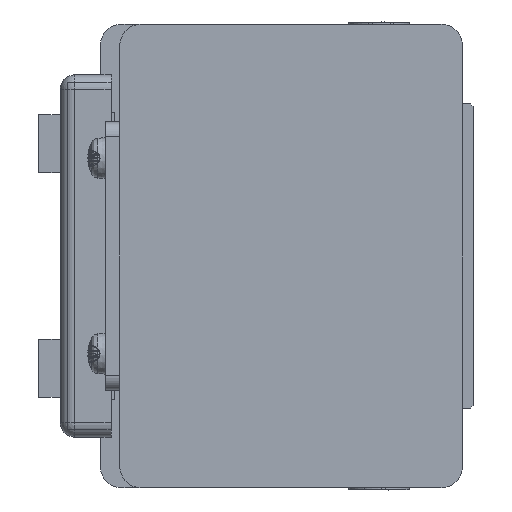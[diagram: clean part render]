
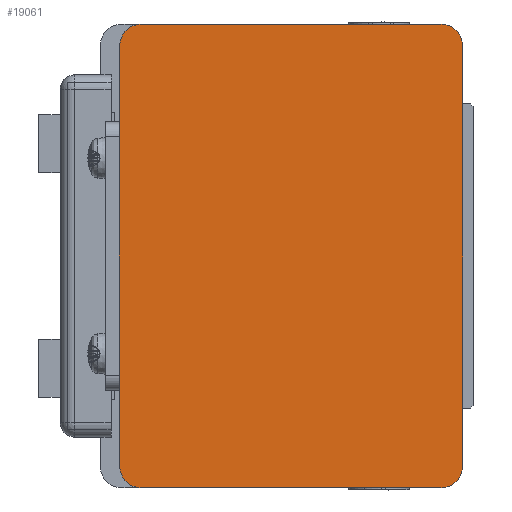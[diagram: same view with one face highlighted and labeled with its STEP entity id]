
A CAD part, left-side view. The second image highlights one B-rep face of the part: STEP entity #19061.
In plain terms, the highlighted planar face has unit normal (-1, 0, 0) as drawn and (0, 0, -1) by its records, which use the part's own axes.
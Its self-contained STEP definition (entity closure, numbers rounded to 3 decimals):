
#779=LINE('',#26963,#2431);
#794=LINE('',#27005,#2446);
#839=LINE('',#27114,#2491);
#861=LINE('',#27183,#2513);
#874=LINE('',#27218,#2526);
#875=LINE('',#27221,#2527);
#876=LINE('',#27222,#2528);
#877=LINE('',#27227,#2529);
#2431=VECTOR('',#22041,19.);
#2446=VECTOR('',#22074,41.3);
#2491=VECTOR('',#22163,41.3);
#2513=VECTOR('',#22223,19.);
#2526=VECTOR('',#22258,0.1);
#2527=VECTOR('',#22261,20.);
#2528=VECTOR('',#22262,0.1);
#2529=VECTOR('',#22267,58.);
#4240=PLANE('',#20315);
#5076=FACE_OUTER_BOUND('',#6204,.T.);
#6204=EDGE_LOOP('',(#12830,#12831,#12832,#12833,#12834,#12835,#12836,#12837,
#12838,#12839,#12840,#12841));
#7464=CIRCLE('',#20316,3.);
#7465=CIRCLE('',#20317,3.);
#7466=CIRCLE('',#20318,3.);
#7467=CIRCLE('',#20319,3.);
#8025=VERTEX_POINT('',#26960);
#8026=VERTEX_POINT('',#26962);
#8043=VERTEX_POINT('',#27002);
#8044=VERTEX_POINT('',#27004);
#8085=VERTEX_POINT('',#27111);
#8086=VERTEX_POINT('',#27113);
#8113=VERTEX_POINT('',#27180);
#8114=VERTEX_POINT('',#27182);
#8125=VERTEX_POINT('',#27216);
#8126=VERTEX_POINT('',#27220);
#8127=VERTEX_POINT('',#27224);
#8128=VERTEX_POINT('',#27226);
#9890=EDGE_CURVE('',#8026,#8025,#779,.T.);
#9911=EDGE_CURVE('',#8044,#8043,#794,.T.);
#9966=EDGE_CURVE('',#8086,#8085,#839,.T.);
#10000=EDGE_CURVE('',#8114,#8113,#861,.T.);
#10019=EDGE_CURVE('',#8125,#8025,#874,.T.);
#10020=EDGE_CURVE('',#8126,#8125,#875,.T.);
#10021=EDGE_CURVE('',#8114,#8126,#876,.T.);
#10022=EDGE_CURVE('',#8113,#8086,#7464,.T.);
#10023=EDGE_CURVE('',#8085,#8127,#7465,.T.);
#10024=EDGE_CURVE('',#8127,#8128,#877,.T.);
#10025=EDGE_CURVE('',#8128,#8044,#7466,.T.);
#10026=EDGE_CURVE('',#8043,#8026,#7467,.T.);
#12830=ORIENTED_EDGE('',*,*,#9890,.T.);
#12831=ORIENTED_EDGE('',*,*,#10019,.F.);
#12832=ORIENTED_EDGE('',*,*,#10020,.F.);
#12833=ORIENTED_EDGE('',*,*,#10021,.F.);
#12834=ORIENTED_EDGE('',*,*,#10000,.T.);
#12835=ORIENTED_EDGE('',*,*,#10022,.T.);
#12836=ORIENTED_EDGE('',*,*,#9966,.T.);
#12837=ORIENTED_EDGE('',*,*,#10023,.T.);
#12838=ORIENTED_EDGE('',*,*,#10024,.T.);
#12839=ORIENTED_EDGE('',*,*,#10025,.T.);
#12840=ORIENTED_EDGE('',*,*,#9911,.T.);
#12841=ORIENTED_EDGE('',*,*,#10026,.T.);
#19061=ADVANCED_FACE('',(#5076),#4240,.F.);
#20315=AXIS2_PLACEMENT_3D('',#27219,#22259,#22260);
#20316=AXIS2_PLACEMENT_3D('',#27223,#22263,#22264);
#20317=AXIS2_PLACEMENT_3D('',#27225,#22265,#22266);
#20318=AXIS2_PLACEMENT_3D('',#27228,#22268,#22269);
#20319=AXIS2_PLACEMENT_3D('',#27229,#22270,#22271);
#22041=DIRECTION('',(1.,0.,0.));
#22074=DIRECTION('',(0.,1.,0.));
#22163=DIRECTION('',(0.,-1.,0.));
#22223=DIRECTION('',(1.,0.,0.));
#22258=DIRECTION('',(0.,-1.,0.));
#22259=DIRECTION('center_axis',(0.,0.,1.));
#22260=DIRECTION('ref_axis',(1.,0.,0.));
#22261=DIRECTION('',(-1.,0.,0.));
#22262=DIRECTION('',(0.,1.,0.));
#22263=DIRECTION('center_axis',(0.,0.,-1.));
#22264=DIRECTION('ref_axis',(-1.,0.,0.));
#22265=DIRECTION('center_axis',(0.,0.,-1.));
#22266=DIRECTION('ref_axis',(0.,1.,0.));
#22267=DIRECTION('',(-1.,0.,0.));
#22268=DIRECTION('center_axis',(0.,0.,-1.));
#22269=DIRECTION('ref_axis',(1.,0.,0.));
#22270=DIRECTION('center_axis',(0.,0.,-1.));
#22271=DIRECTION('ref_axis',(0.,-1.,0.));
#26960=CARTESIAN_POINT('',(22.,48.8,-792.));
#26962=CARTESIAN_POINT('',(3.,48.8,-792.));
#26963=CARTESIAN_POINT('',(3.,48.8,-792.));
#27002=CARTESIAN_POINT('',(0.,45.8,-792.));
#27004=CARTESIAN_POINT('',(0.,4.5,-792.));
#27005=CARTESIAN_POINT('',(0.,4.5,-792.));
#27111=CARTESIAN_POINT('',(64.,4.5,-792.));
#27113=CARTESIAN_POINT('',(64.,45.8,-792.));
#27114=CARTESIAN_POINT('',(64.,45.8,-792.));
#27180=CARTESIAN_POINT('',(61.,48.8,-792.));
#27182=CARTESIAN_POINT('',(42.,48.8,-792.));
#27183=CARTESIAN_POINT('',(42.,48.8,-792.));
#27216=CARTESIAN_POINT('',(22.,48.9,-792.));
#27218=CARTESIAN_POINT('',(22.,48.9,-792.));
#27219=CARTESIAN_POINT('Origin',(32.,25.15,-792.));
#27220=CARTESIAN_POINT('',(42.,48.9,-792.));
#27221=CARTESIAN_POINT('',(42.,48.9,-792.));
#27222=CARTESIAN_POINT('',(42.,48.8,-792.));
#27223=CARTESIAN_POINT('Origin',(61.,45.8,-792.));
#27224=CARTESIAN_POINT('',(61.,1.5,-792.));
#27225=CARTESIAN_POINT('Origin',(61.,4.5,-792.));
#27226=CARTESIAN_POINT('',(3.,1.5,-792.));
#27227=CARTESIAN_POINT('',(61.,1.5,-792.));
#27228=CARTESIAN_POINT('Origin',(3.,4.5,-792.));
#27229=CARTESIAN_POINT('Origin',(3.,45.8,-792.));
